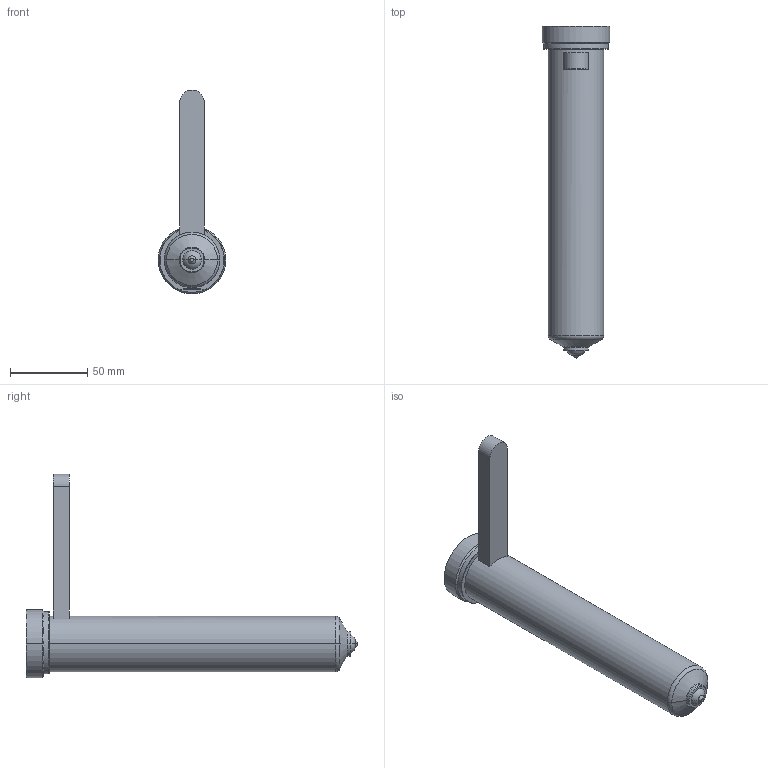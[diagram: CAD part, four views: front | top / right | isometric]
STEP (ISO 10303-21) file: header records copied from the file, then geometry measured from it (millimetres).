
FILE_DESCRIPTION((''),'2;1');
FILE_NAME('EO12_PG-BL_STD_200_COT','2024-02-19T11:13:17',('sundharh'),(''),'CREO PARAMETRIC BY PTC INC, 2023154','CREO PARAMETRIC BY PTC INC, 2023154','');
FILE_SCHEMA(('CONFIG_CONTROL_DESIGN'));
Length unit declared in the file: millimetre
Products named in the file (1): EO12_PG-BL_STD_200_COT
Bounding box: 44 x 215 x 132 mm (x, y, z)
Volume: 231916 mm3; surface area: 31219.2 mm2
Topology: 1 solids, 1 shells, 40 faces, 85 edges, 50 vertices
Faces by surface type: cylinder 13, plane 10, torus 9, cone 6, sphere 2
Entity records: 1185 total; most frequent: CARTESIAN_POINT 255, DIRECTION 209, ORIENTED_EDGE 170, AXIS2_PLACEMENT_3D 90, EDGE_CURVE 85, VERTEX_POINT 50, CIRCLE 50, EDGE_LOOP 43
